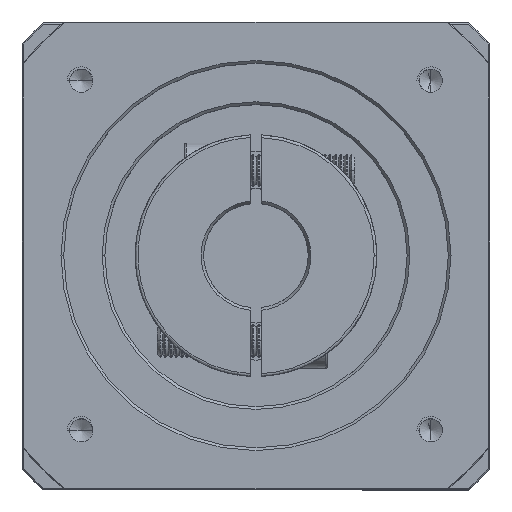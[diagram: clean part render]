
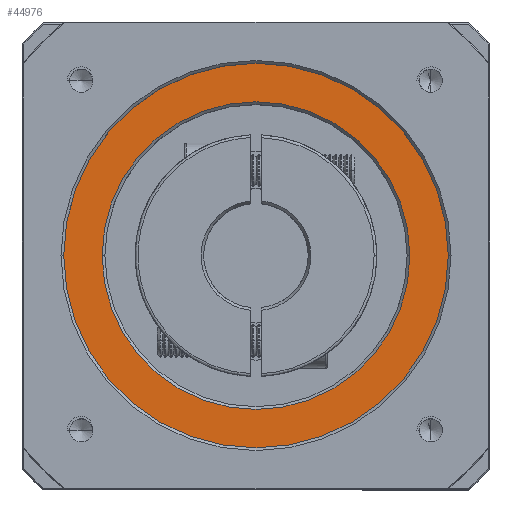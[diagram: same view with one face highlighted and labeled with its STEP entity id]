
A CAD part, top view. The second image highlights one B-rep face of the part: STEP entity #44976.
In plain terms, the highlighted planar face has unit normal (0, 0, 1).
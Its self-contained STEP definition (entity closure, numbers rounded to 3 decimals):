
#1688 = EDGE_CURVE ( 'NONE', #61659, #104042, #44088, .T. ) ;
#2396 = CARTESIAN_POINT ( 'NONE',  ( -61.569, 30.666, 21.372 ) ) ;
#2666 = ORIENTED_EDGE ( 'NONE', *, *, #41706, .T. ) ;
#3952 = DIRECTION ( 'NONE',  ( 0., 0., -1. ) ) ;
#6464 = CARTESIAN_POINT ( 'NONE',  ( -124.569, 30.666, 21.372 ) ) ;
#12537 = DIRECTION ( 'NONE',  ( 0., 0., 1. ) ) ;
#13121 = CARTESIAN_POINT ( 'NONE',  ( -89.569, 30.666, 21.372 ) ) ;
#14547 = CARTESIAN_POINT ( 'NONE',  ( -54.569, 30.666, 21.372 ) ) ;
#17187 = AXIS2_PLACEMENT_3D ( 'NONE', #42622, #102697, #51267 ) ;
#17562 = FACE_BOUND ( 'NONE', #97357, .T. ) ;
#18684 = AXIS2_PLACEMENT_3D ( 'NONE', #90255, #38751, #98868 ) ;
#21906 = DIRECTION ( 'NONE',  ( 1., 0., 0. ) ) ;
#22240 = VERTEX_POINT ( 'NONE', #6464 ) ;
#29140 = EDGE_LOOP ( 'NONE', ( #57096, #2666 ) ) ;
#38028 = FACE_OUTER_BOUND ( 'NONE', #29140, .T. ) ;
#38751 = DIRECTION ( 'NONE',  ( 0., 0., 1. ) ) ;
#41706 = EDGE_CURVE ( 'NONE', #22240, #75655, #52317, .T. ) ;
#42622 = CARTESIAN_POINT ( 'NONE',  ( -89.569, 30.666, 21.372 ) ) ;
#44088 = CIRCLE ( 'NONE', #61573, 28. ) ;
#44976 = ADVANCED_FACE ( 'NONE', ( #38028, #17562 ), #81325, .T. ) ;
#51267 = DIRECTION ( 'NONE',  ( 1., 0., 0. ) ) ;
#52317 = CIRCLE ( 'NONE', #17187, 35. ) ;
#55952 = CARTESIAN_POINT ( 'NONE',  ( -89.569, 30.666, 21.372 ) ) ;
#57096 = ORIENTED_EDGE ( 'NONE', *, *, #100572, .T. ) ;
#58922 = CIRCLE ( 'NONE', #85722, 28. ) ;
#61573 = AXIS2_PLACEMENT_3D ( 'NONE', #55952, #3952, #64566 ) ;
#61659 = VERTEX_POINT ( 'NONE', #2396 ) ;
#62833 = EDGE_CURVE ( 'NONE', #104042, #61659, #58922, .T. ) ;
#64433 = CARTESIAN_POINT ( 'NONE',  ( -89.569, 30.666, 21.372 ) ) ;
#64566 = DIRECTION ( 'NONE',  ( 1., 0., 0. ) ) ;
#73028 = DIRECTION ( 'NONE',  ( 1., 0., 0. ) ) ;
#73615 = DIRECTION ( 'NONE',  ( 0., 0., -1. ) ) ;
#75655 = VERTEX_POINT ( 'NONE', #14547 ) ;
#76622 = CIRCLE ( 'NONE', #18684, 35. ) ;
#81325 = PLANE ( 'NONE',  #88493 ) ;
#82311 = ORIENTED_EDGE ( 'NONE', *, *, #62833, .T. ) ;
#83386 = ORIENTED_EDGE ( 'NONE', *, *, #1688, .T. ) ;
#85722 = AXIS2_PLACEMENT_3D ( 'NONE', #13121, #73615, #21906 ) ;
#88493 = AXIS2_PLACEMENT_3D ( 'NONE', #64433, #12537, #73028 ) ;
#90255 = CARTESIAN_POINT ( 'NONE',  ( -89.569, 30.666, 21.372 ) ) ;
#92940 = CARTESIAN_POINT ( 'NONE',  ( -117.569, 30.666, 21.372 ) ) ;
#97357 = EDGE_LOOP ( 'NONE', ( #83386, #82311 ) ) ;
#98868 = DIRECTION ( 'NONE',  ( 1., 0., 0. ) ) ;
#100572 = EDGE_CURVE ( 'NONE', #75655, #22240, #76622, .T. ) ;
#102697 = DIRECTION ( 'NONE',  ( 0., 0., 1. ) ) ;
#104042 = VERTEX_POINT ( 'NONE', #92940 ) ;
